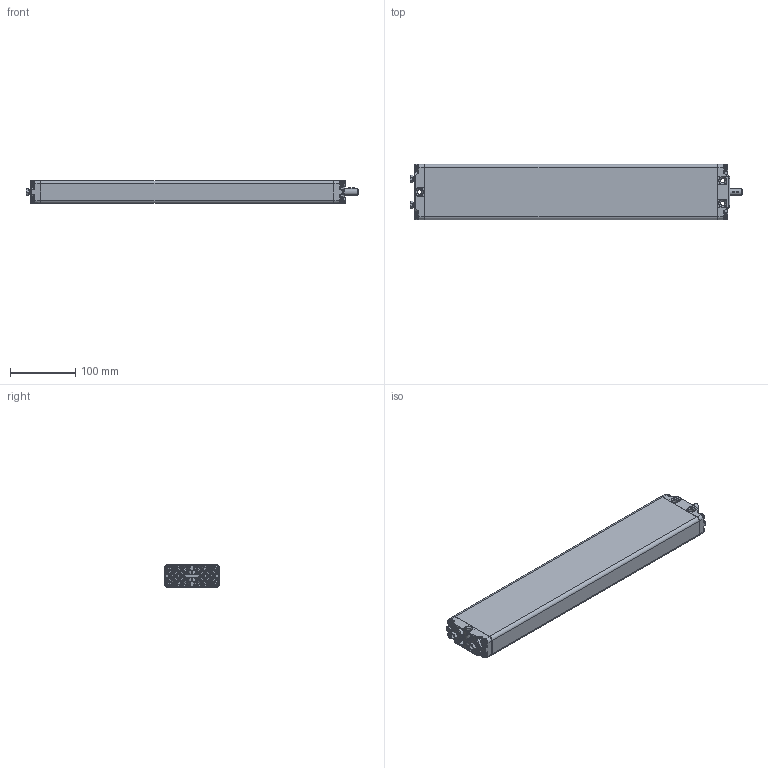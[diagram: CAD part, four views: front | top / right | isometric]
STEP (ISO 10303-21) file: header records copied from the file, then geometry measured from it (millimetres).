
FILE_DESCRIPTION(/* description */ ('Unknown'),/* implementation_level */ '2;1');
FILE_NAME(/* name */ '100.20054 Pumpe PA 2640 W',/* time_stamp */ '2016-08-09T12:51:24+02:00',/* author */ ('Unknown'),/* organization */ ('Unknown'),/* preprocessor_version */ 'ST-DEVELOPER v16.7',/* originating_system */ 'DEX',/* authorisation */ $);
FILE_SCHEMA (('AUTOMOTIVE_DESIGN {1 0 10303 214 3 1 1}'));
Products named in the file (13): 100.20054; 115.00042; 125.00046; 142.00021; 125.00021; 115.00003; 142.00013; 125.00143; 122.00040; 126.00002; 119.00023; 126.00001; 142.00057
Assembly tree (20 placements, depth 3):
  100.20054
    115.00042  x2
      125.00046
      142.00021
      125.00021
      115.00003
    142.00013  x8
    125.00143
    122.00040
    126.00002
    119.00023
    126.00001
    142.00057
Bounding box: 509.47 x 85 x 35 mm (x, y, z)
Volume: 475081.1 mm3; surface area: 273926.9 mm2
Topology: 20 solids, 20 shells, 1902 faces, 4389 edges, 2487 vertices
Faces by surface type: plane 554, bspline 477, cylinder 436, cone 285, torus 104, sphere 46
Full cylindrical faces by diameter (mm): 3.5 x2, 4.1 x2, 4.2 x2, 5 x8, 6.917 x4, 8 x5, 9.8 x8, 10 x3, 10.4 x1, 14 x1, 17.3 x2, 18 x1, 19 x1, 22.4 x2, 25.9 x4
Entity records: 64745 total; most frequent: CARTESIAN_POINT 37610, ORIENTED_EDGE 5746, DIRECTION 4625, EDGE_CURVE 2873, AXIS2_PLACEMENT_3D 1895, VERTEX_POINT 1746, FACE_BOUND 1459, EDGE_LOOP 1458
